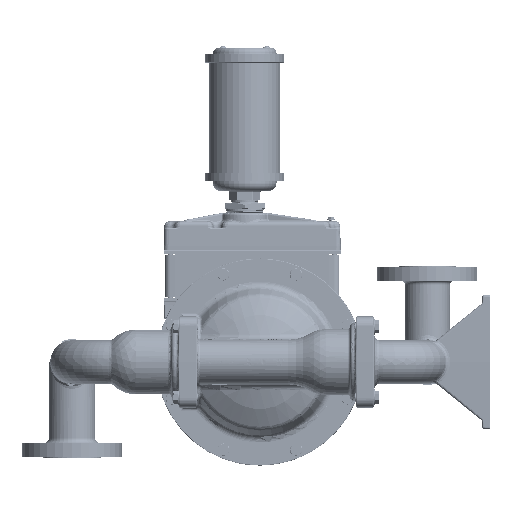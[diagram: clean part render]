
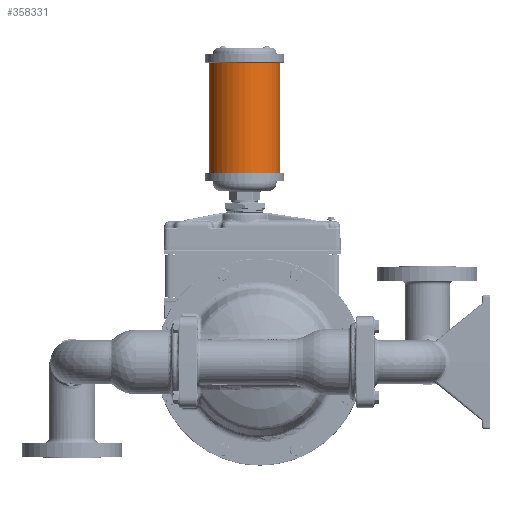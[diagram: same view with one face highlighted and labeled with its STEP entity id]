
A CAD part, left-side view. The second image highlights one B-rep face of the part: STEP entity #358331.
In plain terms, the highlighted cylindrical face has radius 45.339 mm (diameter 90.678 mm), a partial arc.
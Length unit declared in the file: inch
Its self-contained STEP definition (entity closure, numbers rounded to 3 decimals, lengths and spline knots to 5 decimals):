
#7701=CARTESIAN_POINT('',(0.,0.75,9.47));
#7702=DIRECTION('',(0.,0.,1.));
#7703=DIRECTION('',(0.,1.,0.));
#7704=AXIS2_PLACEMENT_3D('',#7701,#7702,#7703);
#7726=DIRECTION('',(0.,0.,-1.));
#7727=VECTOR('',#7726,5.5);
#7728=CARTESIAN_POINT('',(0.,-1.035,14.97));
#7729=LINE('',#7728,#7727);
#7730=DIRECTION('',(0.,0.,-1.));
#7731=VECTOR('',#7730,5.5);
#7732=CARTESIAN_POINT('',(0.,2.535,14.97));
#7733=LINE('',#7732,#7731);
#7739=CARTESIAN_POINT('',(0.,0.75,14.97));
#7740=DIRECTION('',(0.,0.,-1.));
#7741=DIRECTION('',(0.,-1.,0.));
#7742=AXIS2_PLACEMENT_3D('',#7739,#7740,#7741);
#334817=CARTESIAN_POINT('',(0.,2.535,9.47));
#334818=CARTESIAN_POINT('',(0.,-1.035,9.47));
#334819=VERTEX_POINT('',#334817);
#334820=VERTEX_POINT('',#334818);
#334821=CARTESIAN_POINT('',(0.,2.535,14.97));
#334822=VERTEX_POINT('',#334821);
#334823=CARTESIAN_POINT('',(0.,-1.035,14.97));
#334824=VERTEX_POINT('',#334823);
#358317=CARTESIAN_POINT('',(0.,0.75,16.079));
#358318=DIRECTION('',(0.,0.,-1.));
#358319=DIRECTION('',(0.,-1.,0.));
#358320=AXIS2_PLACEMENT_3D('',#358317,#358318,#358319);
#358321=CYLINDRICAL_SURFACE('',#358320,1.785);
#358323=ORIENTED_EDGE('',*,*,#358322,.F.);
#358325=ORIENTED_EDGE('',*,*,#358324,.F.);
#358327=ORIENTED_EDGE('',*,*,#358326,.T.);
#358328=ORIENTED_EDGE('',*,*,#358298,.F.);
#358329=EDGE_LOOP('',(#358323,#358325,#358327,#358328));
#358330=FACE_OUTER_BOUND('',#358329,.F.);
#358331=ADVANCED_FACE('',(#358330),#358321,.T.);
#7705=CIRCLE('',#7704,1.785);
#7743=CIRCLE('',#7742,1.785);
#358298=EDGE_CURVE('',#334819,#334820,#7705,.T.);
#358322=EDGE_CURVE('',#334822,#334819,#7733,.T.);
#358324=EDGE_CURVE('',#334824,#334822,#7743,.T.);
#358326=EDGE_CURVE('',#334824,#334820,#7729,.T.);
